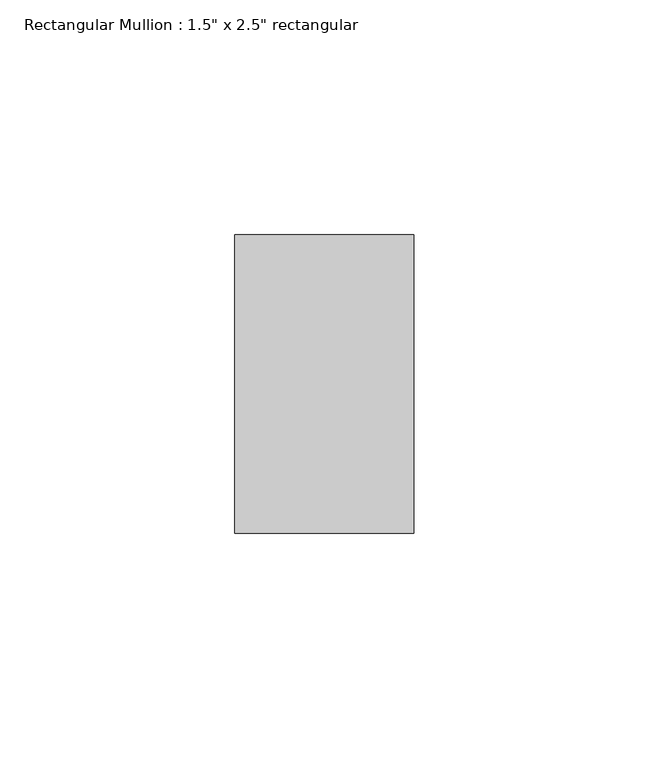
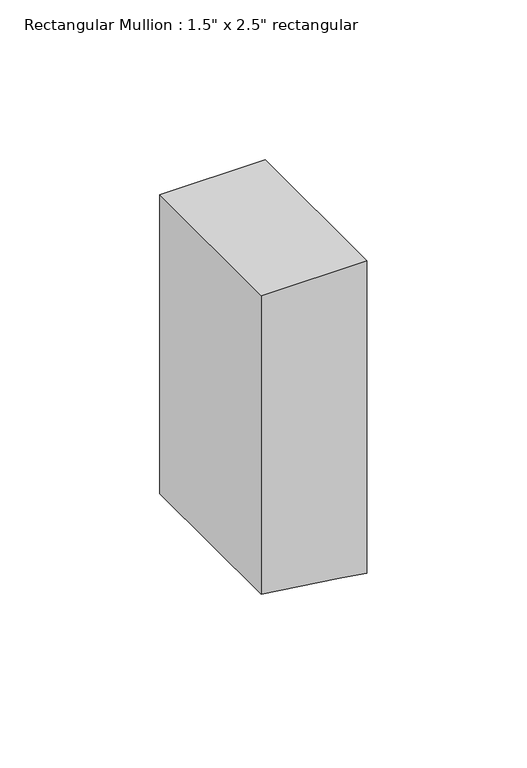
"""IFC4 building model written with IfcOpenShell, lengths in millimetres: member geometry."""

from ifc_helpers import new_model, si_unit, frame, origin, place, context, project, spatial, polyline, outline, extrude, source, transform, mapped, element, save


def member_5ef1489a(model_context):
    return source(origin(), model_context, "Body", "SweptSolid", [
        extrude(outline(polyline([(0.0, 19.05), (0.0, -19.05), (-114.0402278, -19.05), (-117.6306515, 9.1020953), (-119.2439766, 19.05), (0.0, 19.05)])), frame((0.0, -31.75, 0.0), z_axis=(0.0, 1.0, 0.0), x_axis=(0.0, 0.0, 1.0)), (0.0, 0.0, 1.0), 63.5),
    ])


if __name__ == "__main__":
    model = new_model("IFC4")
    model_context = context("Model", 3, world=origin())
    ifc_project = project(units=[si_unit("LENGTHUNIT", "METRE", prefix="MILLI")], contexts=[model_context])
    site = spatial("IfcSite", under=ifc_project)
    building = spatial("IfcBuilding", under=site)
    placement = place(None, origin())
    member_shape = member_5ef1489a(model_context)
    element("IfcMember", 1, ObjectType="Rectangular Mullion : 1.5\" x 2.5\" rectangular", at=placement, inside=building, context=model_context, shape_type="MappedRepresentation", body=[
        mapped(member_shape, transform((0.0, 0.0, 0.0), x_axis=(1.0, 0.0, 0.0), y_axis=(0.0, 1.0, 0.0), z_axis=(0.0, 0.0, 1.0))),
    ])
    save(model, "model.ifc")
